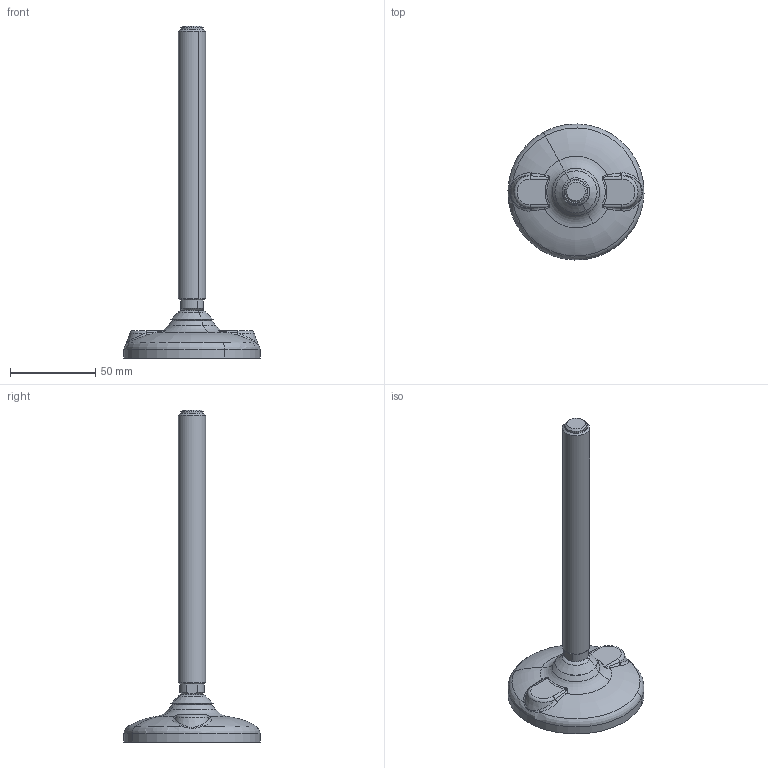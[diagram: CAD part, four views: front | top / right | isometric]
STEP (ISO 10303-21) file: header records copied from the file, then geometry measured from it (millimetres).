
FILE_DESCRIPTION(('CATIA V5 STEP Exchange'),'2;1');
FILE_NAME('\\server01\tecnico\CODICI MOVEX\3D per clienti\Kristine Hartnagel\05-10-2015\P91103_01.stp','2015-10-05T12:35:18+00:00',('none'),('none'),'Version 5-6 Release 2012','CATIA V5 STEP AP203','none');
FILE_SCHEMA(('CONFIG_CONTROL_DESIGN'));
Length unit declared in the file: millimetre
Products named in the file (1): P91103_01
Assembly tree (3 placements, depth 2):
  P91103_01
    #57
    #34330
    #35080
Bounding box: 79.98 x 79.98 x 195.11 mm (x, y, z)
Volume: 75385.4 mm3; surface area: 38245.9 mm2
Topology: 3 solids, 5 shells, 842 faces, 2257 edges, 1422 vertices
Faces by surface type: plane 492, bspline 146, torus 69, cylinder 46, cone 38, sphere 28, revolution 23
Entity records: 35404 total; most frequent: CARTESIAN_POINT 18347, ORIENTED_EDGE 4486, EDGE_CURVE 2243, DIRECTION 1926, B_SPLINE_CURVE_WITH_KNOTS 1441, VERTEX_POINT 1422, AXIS2_PLACEMENT_3D 867, EDGE_LOOP 857
